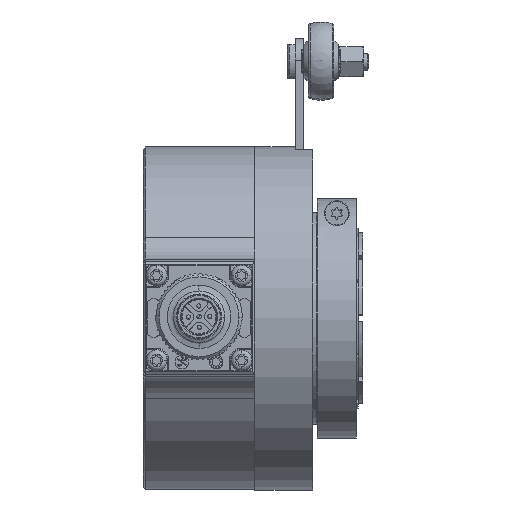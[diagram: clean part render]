
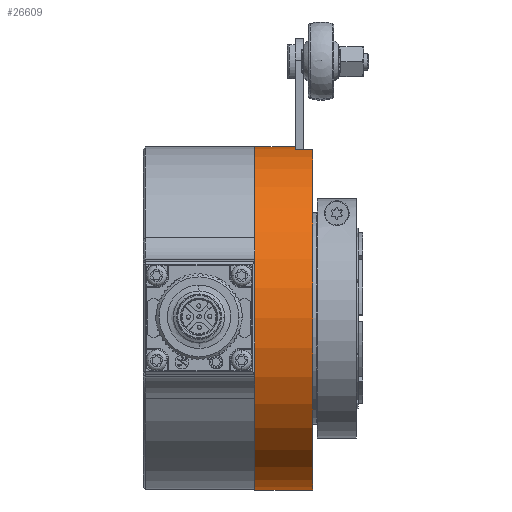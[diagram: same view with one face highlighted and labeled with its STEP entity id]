
A CAD part, top view. The second image highlights one B-rep face of the part: STEP entity #26609.
In plain terms, the highlighted cylindrical face has radius 40.075 mm (diameter 80.15 mm), a partial arc.
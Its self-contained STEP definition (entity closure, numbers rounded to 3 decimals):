
#2100 = DIRECTION ( 'NONE',  ( -1., 0., 0. ) ) ;
#2487 = AXIS2_PLACEMENT_3D ( 'NONE', #19202, #14106, #38602 ) ;
#4228 = EDGE_CURVE ( 'NONE', #56637, #41107, #21506, .T. ) ;
#4591 = VERTEX_POINT ( 'NONE', #28658 ) ;
#5093 = DIRECTION ( 'NONE',  ( -1., 0., 0. ) ) ;
#10421 = EDGE_CURVE ( 'NONE', #56637, #36027, #42547, .T. ) ;
#13717 = CARTESIAN_POINT ( 'NONE',  ( -12.775, 0., 0. ) ) ;
#14106 = DIRECTION ( 'NONE',  ( -1., 0., 0. ) ) ;
#15409 = CIRCLE ( 'NONE', #17468, 40.075 ) ;
#15558 = CARTESIAN_POINT ( 'NONE',  ( -12.775, 39.468, 6.95 ) ) ;
#17468 = AXIS2_PLACEMENT_3D ( 'NONE', #32160, #47491, #56406 ) ;
#19202 = CARTESIAN_POINT ( 'NONE',  ( 0., 0., 0. ) ) ;
#20393 = EDGE_CURVE ( 'NONE', #43892, #4591, #15409, .T. ) ;
#21506 = CIRCLE ( 'NONE', #62231, 40.075 ) ;
#22105 = EDGE_LOOP ( 'NONE', ( #36231, #22347, #39666, #52953, #25494, #40396 ) ) ;
#22347 = ORIENTED_EDGE ( 'NONE', *, *, #4228, .T. ) ;
#23444 = CARTESIAN_POINT ( 'NONE',  ( -12.775, -40.075, 0. ) ) ;
#23775 = LINE ( 'NONE', #27308, #54765 ) ;
#24476 = LINE ( 'NONE', #15558, #40173 ) ;
#25494 = ORIENTED_EDGE ( 'NONE', *, *, #54284, .T. ) ;
#26609 = ADVANCED_FACE ( 'NONE', ( #42692 ), #43949, .T. ) ;
#27308 = CARTESIAN_POINT ( 'NONE',  ( -12.775, 40.075, 0. ) ) ;
#27399 = CARTESIAN_POINT ( 'NONE',  ( 13.5, 39.468, 6.95 ) ) ;
#28658 = CARTESIAN_POINT ( 'NONE',  ( 9.5, 40.075, 0. ) ) ;
#29875 = VERTEX_POINT ( 'NONE', #38073 ) ;
#30141 = CARTESIAN_POINT ( 'NONE',  ( 13.5, 0., 0. ) ) ;
#32160 = CARTESIAN_POINT ( 'NONE',  ( 9.5, 0., 0. ) ) ;
#32987 = DIRECTION ( 'NONE',  ( -1., 0., 0. ) ) ;
#34939 = DIRECTION ( 'NONE',  ( -1., 0., 0. ) ) ;
#36027 = VERTEX_POINT ( 'NONE', #47623 ) ;
#36231 = ORIENTED_EDGE ( 'NONE', *, *, #10421, .F. ) ;
#37415 = VECTOR ( 'NONE', #57847, 1000. ) ;
#38073 = CARTESIAN_POINT ( 'NONE',  ( 0., 40.075, 0. ) ) ;
#38602 = DIRECTION ( 'NONE',  ( 0., 1., 0. ) ) ;
#39666 = ORIENTED_EDGE ( 'NONE', *, *, #42580, .T. ) ;
#40173 = VECTOR ( 'NONE', #34939, 1000. ) ;
#40396 = ORIENTED_EDGE ( 'NONE', *, *, #48469, .F. ) ;
#41107 = VERTEX_POINT ( 'NONE', #27399 ) ;
#41129 = CIRCLE ( 'NONE', #2487, 40.075 ) ;
#42547 = LINE ( 'NONE', #23444, #37415 ) ;
#42580 = EDGE_CURVE ( 'NONE', #41107, #43892, #24476, .T. ) ;
#42692 = FACE_OUTER_BOUND ( 'NONE', #22105, .T. ) ;
#43643 = DIRECTION ( 'NONE',  ( 0., 1., 0. ) ) ;
#43892 = VERTEX_POINT ( 'NONE', #54320 ) ;
#43949 = CYLINDRICAL_SURFACE ( 'NONE', #60712, 40.075 ) ;
#46468 = CARTESIAN_POINT ( 'NONE',  ( 13.5, -40.075, 0. ) ) ;
#47491 = DIRECTION ( 'NONE',  ( -1., 0., 0. ) ) ;
#47623 = CARTESIAN_POINT ( 'NONE',  ( 0., -40.075, 0. ) ) ;
#48469 = EDGE_CURVE ( 'NONE', #36027, #29875, #41129, .T. ) ;
#52953 = ORIENTED_EDGE ( 'NONE', *, *, #20393, .T. ) ;
#54284 = EDGE_CURVE ( 'NONE', #4591, #29875, #23775, .T. ) ;
#54320 = CARTESIAN_POINT ( 'NONE',  ( 9.5, 39.468, 6.95 ) ) ;
#54765 = VECTOR ( 'NONE', #32987, 1000. ) ;
#56406 = DIRECTION ( 'NONE',  ( 0., 1., 0. ) ) ;
#56637 = VERTEX_POINT ( 'NONE', #46468 ) ;
#57847 = DIRECTION ( 'NONE',  ( -1., 0., 0. ) ) ;
#59445 = DIRECTION ( 'NONE',  ( 0., 1., 0. ) ) ;
#60712 = AXIS2_PLACEMENT_3D ( 'NONE', #13717, #5093, #43643 ) ;
#62231 = AXIS2_PLACEMENT_3D ( 'NONE', #30141, #2100, #59445 ) ;
